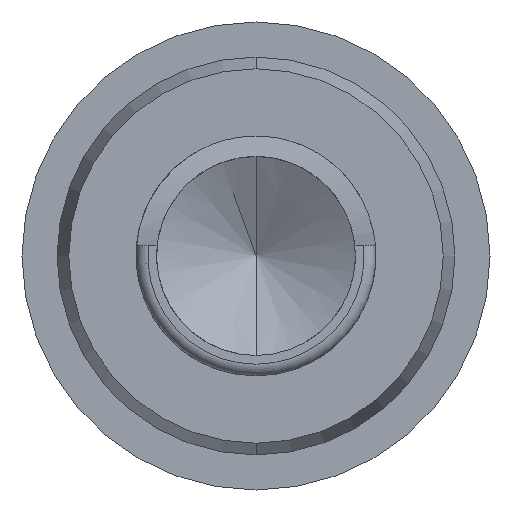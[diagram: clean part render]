
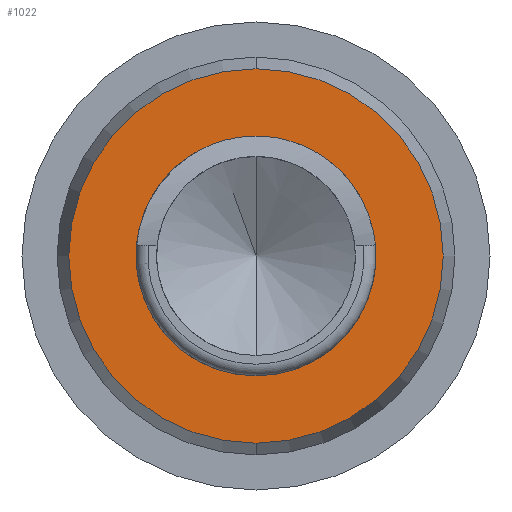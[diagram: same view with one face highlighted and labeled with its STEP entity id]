
A CAD part, front view. The second image highlights one B-rep face of the part: STEP entity #1022.
In plain terms, the highlighted planar face has unit normal (0, -1, 0).
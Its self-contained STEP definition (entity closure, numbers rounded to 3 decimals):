
#299=CARTESIAN_POINT('',(0.,0.95,0.));
#300=DIRECTION('',(0.,1.,0.));
#301=DIRECTION('',(0.,0.,-1.));
#302=AXIS2_PLACEMENT_3D('',#299,#300,#301);
#304=CARTESIAN_POINT('',(0.,0.95,0.));
#305=DIRECTION('',(0.,-1.,0.));
#306=DIRECTION('',(0.,0.,-1.));
#307=AXIS2_PLACEMENT_3D('',#304,#305,#306);
#309=CARTESIAN_POINT('',(0.,0.95,0.));
#310=DIRECTION('',(0.,-1.,0.));
#311=DIRECTION('',(0.,0.,-1.));
#312=AXIS2_PLACEMENT_3D('',#309,#310,#311);
#314=CARTESIAN_POINT('',(0.,0.95,0.));
#315=DIRECTION('',(0.,1.,0.));
#316=DIRECTION('',(0.,0.,-1.));
#317=AXIS2_PLACEMENT_3D('',#314,#315,#316);
#497=CARTESIAN_POINT('',(0.,0.95,-1.025));
#499=VERTEX_POINT('',#497);
#500=CARTESIAN_POINT('',(0.,0.95,-1.6));
#502=VERTEX_POINT('',#500);
#536=CARTESIAN_POINT('',(0.,0.95,1.6));
#538=VERTEX_POINT('',#536);
#562=CARTESIAN_POINT('',(0.,0.95,1.025));
#563=VERTEX_POINT('',#562);
#1007=CARTESIAN_POINT('',(0.,0.95,0.));
#1008=DIRECTION('',(0.,-1.,0.));
#1009=DIRECTION('',(0.,0.,1.));
#1010=AXIS2_PLACEMENT_3D('',#1007,#1008,#1009);
#1011=PLANE('',#1010);
#1012=ORIENTED_EDGE('',*,*,#989,.T.);
#1013=ORIENTED_EDGE('',*,*,#1000,.F.);
#1014=EDGE_LOOP('',(#1012,#1013));
#1015=FACE_OUTER_BOUND('',#1014,.F.);
#1017=ORIENTED_EDGE('',*,*,#1016,.T.);
#1019=ORIENTED_EDGE('',*,*,#1018,.F.);
#1020=EDGE_LOOP('',(#1017,#1019));
#1021=FACE_BOUND('',#1020,.F.);
#1022=ADVANCED_FACE('',(#1015,#1021),#1011,.T.);
#303=CIRCLE('',#302,1.6);
#308=CIRCLE('',#307,1.6);
#313=CIRCLE('',#312,1.025);
#318=CIRCLE('',#317,1.025);
#989=EDGE_CURVE('',#502,#538,#303,.T.);
#1000=EDGE_CURVE('',#502,#538,#308,.T.);
#1016=EDGE_CURVE('',#499,#563,#313,.T.);
#1018=EDGE_CURVE('',#499,#563,#318,.T.);
